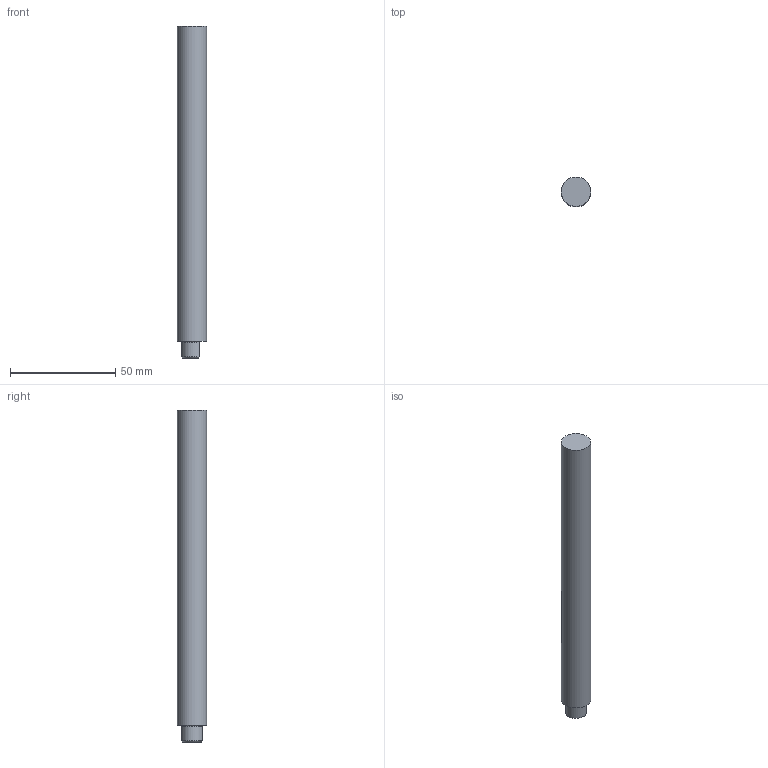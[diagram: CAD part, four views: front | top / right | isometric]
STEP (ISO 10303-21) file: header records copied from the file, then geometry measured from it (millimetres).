
FILE_DESCRIPTION (( 'STEP AP214' ), '1' );
FILE_NAME ('KKPHF Pin C_-_10-150.step', '2024-02-07T08:52:34', ( '' ), ( '' ), 'SwSTEP 2.0', 'SolidWorks 2020', '' );
FILE_SCHEMA (( 'AUTOMOTIVE_DESIGN' ));
Length unit declared in the file: millimetre
Products named in the file (1): KKPHF  Pin C_-_10-150
Bounding box: 14 x 14 x 157.9 mm (x, y, z)
Volume: 23472.6 mm3; surface area: 7298.4 mm2
Topology: 1 solids, 1 shells, 12 faces, 22 edges, 13 vertices
Faces by surface type: plane 5, cylinder 4, cone 2, torus 1
Full cylindrical faces by diameter (mm): 4.2 x1, 14 x1
Entity records: 323 total; most frequent: CARTESIAN_POINT 59, DIRECTION 48, ORIENTED_EDGE 36, AXIS2_PLACEMENT_3D 21, EDGE_CURVE 18, EDGE_LOOP 16, FACE_OUTER_BOUND 14, ADVANCED_FACE 12
